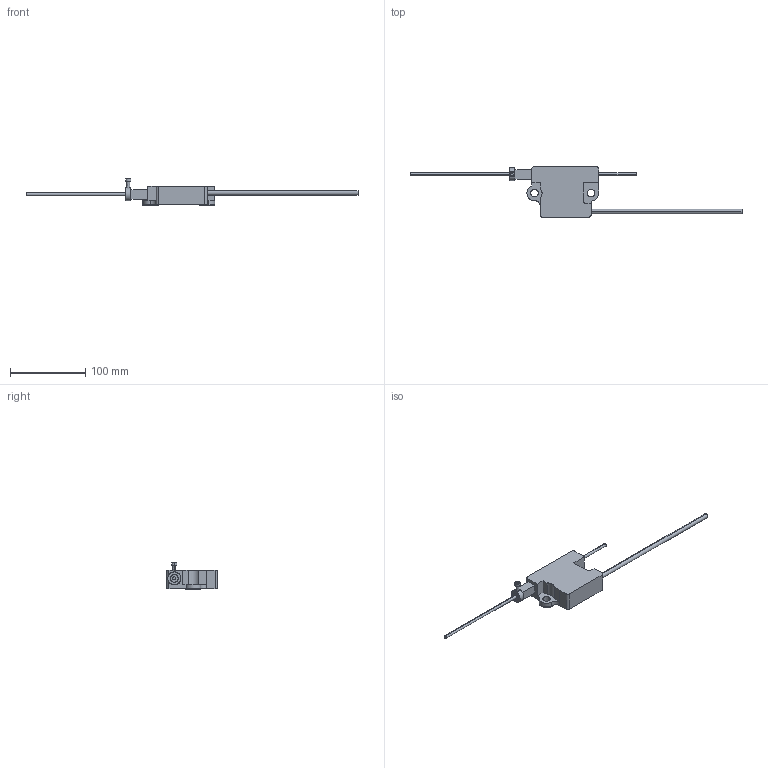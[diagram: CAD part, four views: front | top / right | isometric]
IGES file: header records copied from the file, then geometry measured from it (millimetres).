
Global section: file name: E:\UnigraphicsGraphicData\MISUMI_PRESS-PARTS\IGES\3d_mguc_04577_r00.igs; native system: NX V5.0; preprocessor: UGS NX IGES V5.0; author: MISUMI; date: 20110105.161440; units: millimetre
Bounding box: 440 x 67 x 36.15 mm (x, y, z)
Surface area: 27309 mm2 (no closed solid volume)
Topology: 0 solids, 0 shells, 78 faces, 535 edges, 535 vertices
Faces by surface type: bspline 78
